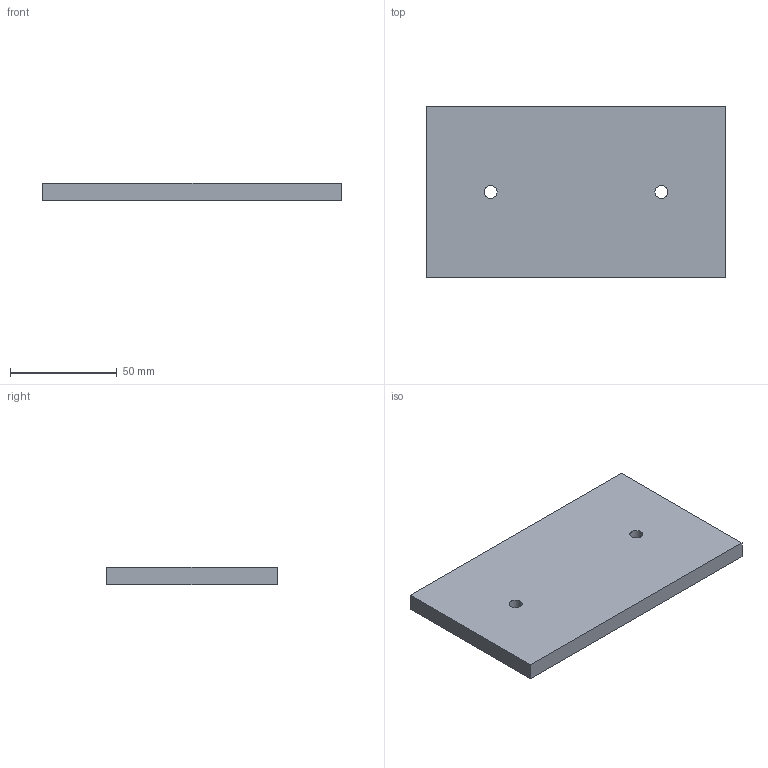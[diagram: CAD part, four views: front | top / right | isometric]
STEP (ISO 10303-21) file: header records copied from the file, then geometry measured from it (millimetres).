
FILE_DESCRIPTION(('Open CASCADE Model'),'2;1');
FILE_NAME('Open CASCADE Shape Model','2026-10-28T05:16:21',('Author'),( 'Open CASCADE'),'Open CASCADE STEP processor 7.8','Open CASCADE 7.8' ,'Unknown');
FILE_SCHEMA(('AUTOMOTIVE_DESIGN { 1 0 10303 214 1 1 1 1 }'));
Length unit declared in the file: millimetre
Products named in the file (1): Open CASCADE STEP translator 7.8 37
Bounding box: 140 x 80 x 8 mm (x, y, z)
Volume: 89143.1 mm3; surface area: 26108.9 mm2
Topology: 1 solids, 1 shells, 8 faces, 18 edges, 12 vertices
Faces by surface type: plane 6, cylinder 2
Full cylindrical faces by diameter (mm): 6.03 x2
Entity records: 478 total; most frequent: DIRECTION 76, CARTESIAN_POINT 75, LINE 46, VECTOR 46, ORIENTED_EDGE 36, PCURVE 36, DEFINITIONAL_REPRESENTATION 36, EDGE_CURVE 18
